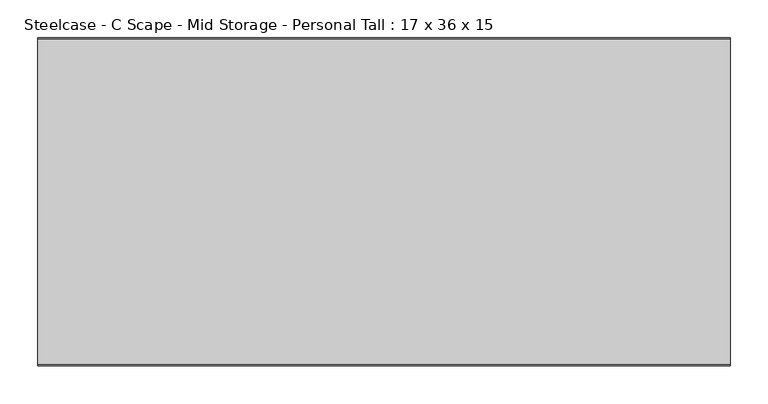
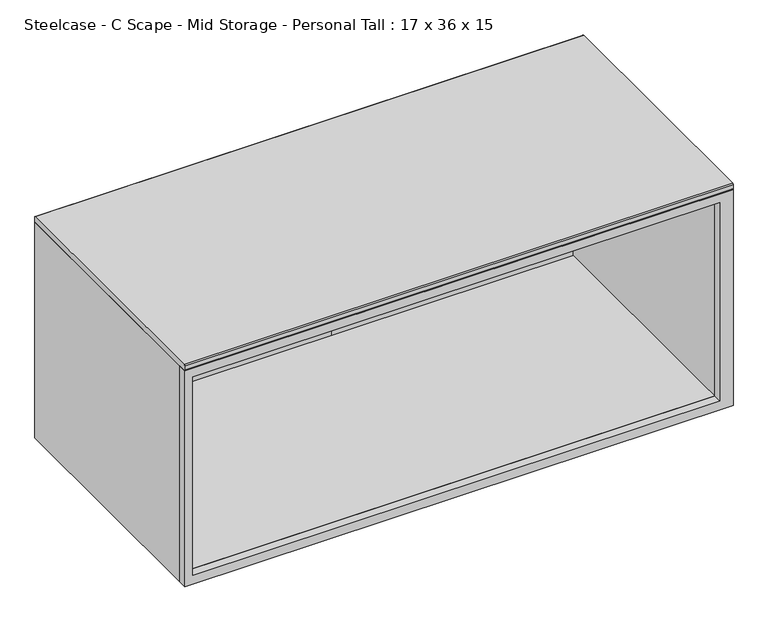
"""IFC4 building model written with IfcOpenShell, lengths in millimetres: furniture geometry, Steelcase - C Scape - Mid Storage - Personal Tall : 17 x 36 x 15."""

from ifc_helpers import new_model, si_unit, point, frame, frame_2d, origin, place, context, project, spatial, polyline, circle_curve, trimmed, segment, composite_curve, outline, extrude, source, transform, mapped, element, save


def steelcase_c_scape_mid_storage_personal_tall_17_x_36_x_15_f6513e83(model_context):
    return source(origin(), model_context, "Body", "SweptSolid", [
        extrude(outline(polyline([(1219.2, 914.4), (1219.2, 0.0), (838.2, 0.0), (838.2, 914.4), (1219.2, 914.4)]), holes=[polyline([(1203.9092, 892.302), (853.4399855, 892.302), (853.4399855, 13.437709), (1203.9092, 13.437709), (1203.9092, 892.302)])]), frame((0.0, -216.535, 0.0), z_axis=(0.0, 1.0, 0.0), x_axis=(0.0, 0.0, 1.0)), (0.0, 0.0, 1.0), 14.3764481),
        extrude(outline(polyline([(892.302, 207.0105809), (892.302, -187.7821039), (13.437709, -187.7821039), (13.437709, 207.0105809), (892.302, 207.0105809)])), frame((0.0, 0.0, 1203.9600145), z_axis=(0.0, 0.0, 1.0), x_axis=(1.0, 0.0, 0.0)), (0.0, 0.0, 1.0), 15.2399855),
        extrude(outline(polyline([(892.302, 207.0105809), (892.302, -202.1585519), (13.437709, -202.1585519), (13.437709, 207.0105809), (892.302, 207.0105809)])), frame((0.0, 0.0, 838.2), z_axis=(0.0, 0.0, 1.0), x_axis=(1.0, 0.0, 0.0)), (0.0, 0.0, 1.0), 15.2399855),
        extrude(outline(composite_curve([segment(polyline([(-215.265, 1229.36), (215.265, 1229.36)]), True, "CONTINUOUS"), segment(trimmed(circle_curve(frame_2d((215.265, 1228.09)), 1.27), [point((215.265, 1229.36))], [point((216.535, 1228.09))], False, "CARTESIAN"), True, "CONTINUOUS"), segment(polyline([(216.535, 1228.09), (216.535, 1220.47)]), True, "CONTINUOUS"), segment(trimmed(circle_curve(frame_2d((215.265, 1220.47)), 1.27), [point((216.535, 1220.47))], [point((215.265, 1219.2))], False, "CARTESIAN"), True, "CONTINUOUS"), segment(polyline([(215.265, 1219.2), (-215.265, 1219.2)]), True, "CONTINUOUS"), segment(trimmed(circle_curve(frame_2d((-215.265, 1220.47)), 1.27), [point((-215.265, 1219.2))], [point((-216.535, 1220.47))], False, "CARTESIAN"), True, "CONTINUOUS"), segment(polyline([(-216.535, 1220.47), (-216.535, 1228.09)]), True, "CONTINUOUS"), segment(trimmed(circle_curve(frame_2d((-215.265, 1228.09)), 1.27), [point((-216.535, 1228.09))], [point((-215.265, 1229.36))], False, "CARTESIAN"), True, "CONTINUOUS")], self_intersect=False)), frame((0.0, 0.0, 0.0), z_axis=(1.0, 0.0, 0.0), x_axis=(0.0, 1.0, 0.0)), (0.0, 0.0, 1.0), 914.4),
        extrude(outline(polyline([(13.437709, -202.1585519), (0.0, -202.1585519), (0.0, 216.535), (914.4, 216.535), (914.4, -202.1585519), (892.302, -202.1585519), (892.302, 207.0105809), (488.4892922, 207.0105809), (13.437709, 207.0105809), (13.437709, -202.1585519)])), frame((0.0, 0.0, 838.2), z_axis=(0.0, 0.0, 1.0), x_axis=(1.0, 0.0, 0.0)), (0.0, 0.0, 1.0), 381.0),
    ])


if __name__ == "__main__":
    model = new_model("IFC4")
    model_context = context("Model", 3, world=origin())
    ifc_project = project(units=[si_unit("LENGTHUNIT", "METRE", prefix="MILLI")], contexts=[model_context])
    site = spatial("IfcSite", under=ifc_project)
    building = spatial("IfcBuilding", under=site)
    placement = place(None, origin())
    steelcase_c_scape_mid_storage_personal_tall_17_x_36_x_15_shape = steelcase_c_scape_mid_storage_personal_tall_17_x_36_x_15_f6513e83(model_context)
    element("IfcFurniture", 1, ObjectType="Steelcase - C Scape - Mid Storage - Personal Tall : 17 x 36 x 15", at=placement, inside=building, context=model_context, shape_type="MappedRepresentation", body=[
        mapped(steelcase_c_scape_mid_storage_personal_tall_17_x_36_x_15_shape, transform((0.0, 0.0, 0.0), x_axis=(1.0, 0.0, 0.0), y_axis=(0.0, 1.0, 0.0), z_axis=(0.0, 0.0, 1.0))),
    ])
    save(model, "model.ifc")
